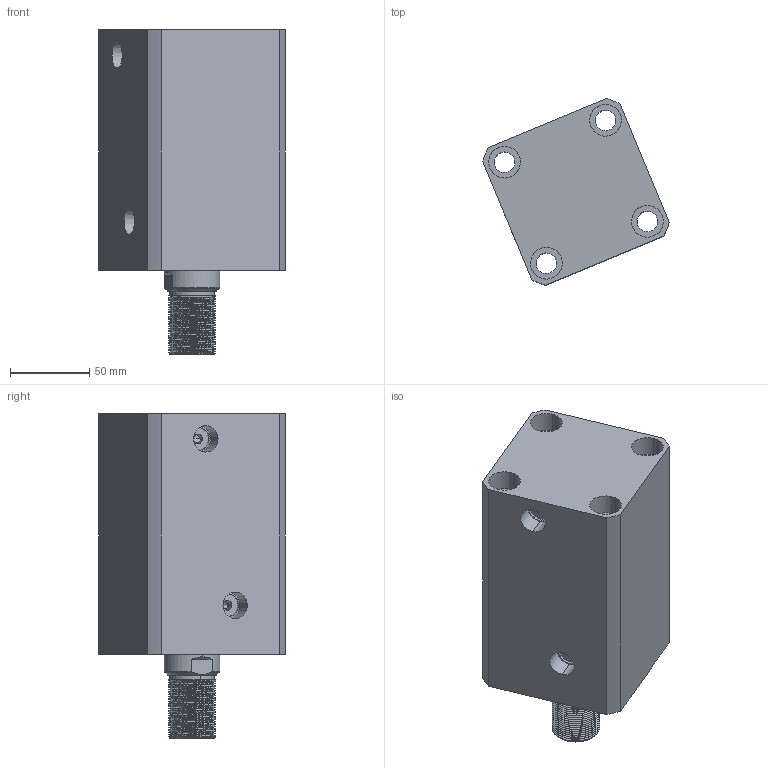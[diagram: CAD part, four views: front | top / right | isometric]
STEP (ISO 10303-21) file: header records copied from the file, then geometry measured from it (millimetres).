
FILE_DESCRIPTION (( 'STEP AP214' ), '1' );
FILE_NAME ('chtb-sd63x85w_asm.STEP', '2018-05-19T02:02:20', ( 'Windows' ), ( 'Microsoft' ), 'SwSTEP 2.0', 'SolidWorks 2015', '' );
FILE_SCHEMA (( 'AUTOMOTIVE_DESIGN' ));
Length unit declared in the file: millimetre
Products named in the file (4): CHTB63X85WHSG; CHTB63X85NBT; CHTB-63QG; chtb-sd63x85w_asm
Assembly tree (3 placements, depth 2):
  chtb-sd63x85w_asm
    CHTB-63QG
    CHTB63X85NBT
    CHTB63X85WHSG
Bounding box: 117.81 x 117.81 x 205 mm (x, y, z)
Volume: 1082269.7 mm3; surface area: 178629.6 mm2
Topology: 3 solids, 3 shells, 219 faces, 625 edges, 427 vertices
Faces by surface type: cylinder 150, plane 36, bspline 14, cone 13, torus 6
Entity records: 22208 total; most frequent: CARTESIAN_POINT 16953, ORIENTED_EDGE 1242, DIRECTION 881, EDGE_CURVE 621, VERTEX_POINT 427, AXIS2_PLACEMENT_3D 346, EDGE_LOOP 252, ADVANCED_FACE 219
